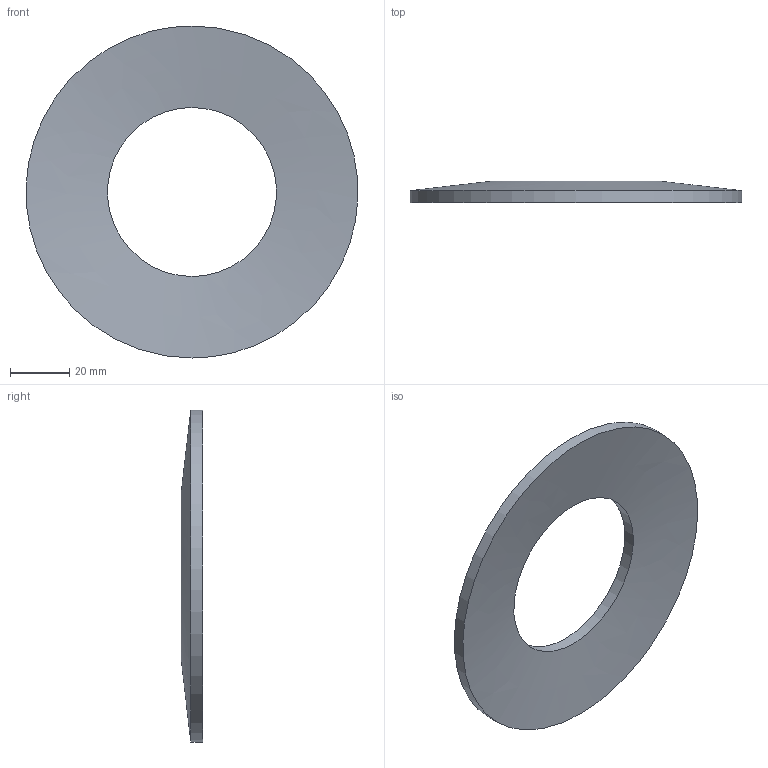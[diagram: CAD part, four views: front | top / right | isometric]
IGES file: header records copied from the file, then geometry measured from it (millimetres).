
Global section: file name: ST.1120.0570.0400; native system: Autodesk Inventor 2026; preprocessor: unknown; author: J. Iwanek; date: 20260918.103418; units: millimetre
Bounding box: 111.9 x 7.2 x 112 mm (x, y, z)
Volume: 29405.6 mm3; surface area: 16841.4 mm2
Topology: 1 solids, 1 shells, 4 faces, 12 edges, 8 vertices
Faces by surface type: bspline 4
